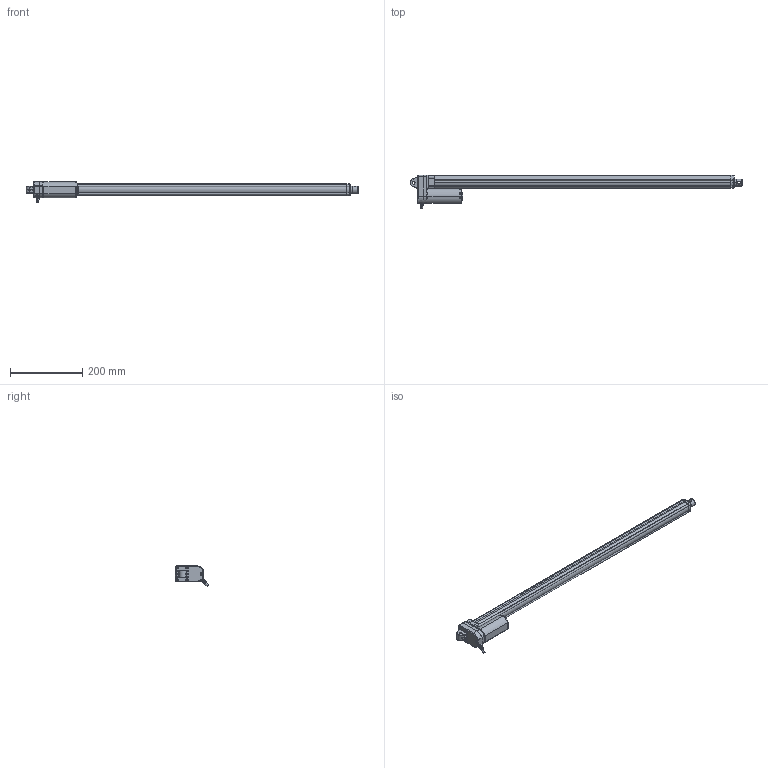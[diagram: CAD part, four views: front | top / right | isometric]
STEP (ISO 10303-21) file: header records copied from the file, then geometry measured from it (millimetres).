
FILE_DESCRIPTION(('STEP AP203'),'1');
FILE_NAME('dj809a1750900a0f011r01111111a01230619193625.stp','2025-06-19T19:36:30',('TraceParts'),('TraceParts S.A.'),'Spatial InterOp 3D',' ',' ');
FILE_SCHEMA(('CONFIG_CONTROL_DESIGN'));
Length unit declared in the file: millimetre
Products named in the file (1): 1
Bounding box: 919.11 x 92.14 x 56.99 mm (x, y, z)
Volume: 1040050.6 mm3; surface area: 140266.3 mm2
Topology: 1 solids, 1 shells, 743 faces, 1942 edges, 1207 vertices
Faces by surface type: plane 297, cylinder 195, bspline 121, torus 74, cone 45, sphere 11
Entity records: 29262 total; most frequent: CARTESIAN_POINT 11986, ORIENTED_EDGE 3852, DIRECTION 3371, EDGE_CURVE 1926, AXIS2_PLACEMENT_3D 1283, VERTEX_POINT 1207, LINE 805, VECTOR 805
